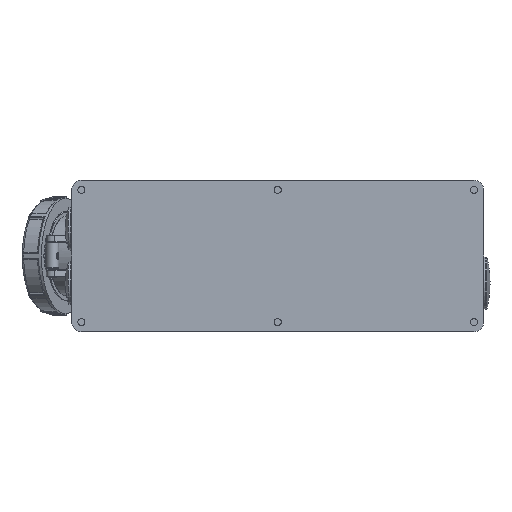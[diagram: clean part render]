
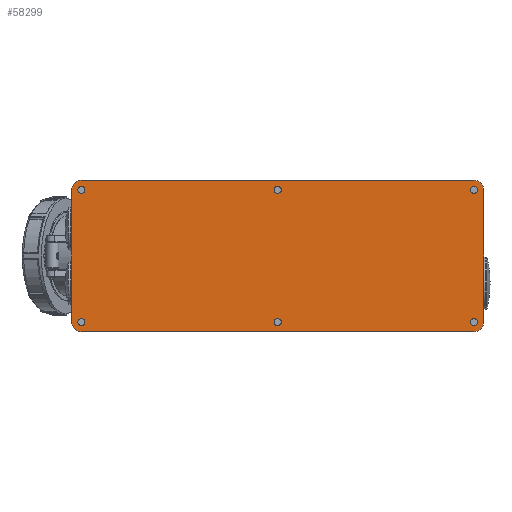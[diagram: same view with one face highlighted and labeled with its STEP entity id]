
A CAD part, front view. The second image highlights one B-rep face of the part: STEP entity #58299.
In plain terms, the highlighted planar face has unit normal (0, -1, 0).
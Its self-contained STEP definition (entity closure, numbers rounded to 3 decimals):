
#13280=CARTESIAN_POINT('',(-173.5,0.,-58.5));
#13281=DIRECTION('',(0.,1.,0.));
#13282=DIRECTION('',(0.,0.,-1.));
#13283=AXIS2_PLACEMENT_3D('',#13280,#13281,#13282);
#13288=DIRECTION('',(0.,0.,1.));
#13289=VECTOR('',#13288,117.);
#13290=CARTESIAN_POINT('',(-182.,0.,-58.5));
#13291=LINE('1913',#13290,#13289);
#13295=CARTESIAN_POINT('',(-173.5,0.,58.5));
#13296=DIRECTION('',(0.,1.,0.));
#13297=DIRECTION('',(-1.,0.,0.));
#13298=AXIS2_PLACEMENT_3D('',#13295,#13296,#13297);
#13303=DIRECTION('',(1.,0.,0.));
#13304=VECTOR('',#13303,347.);
#13305=CARTESIAN_POINT('',(-173.5,0.,67.));
#13306=LINE('1915',#13305,#13304);
#13310=CARTESIAN_POINT('',(173.5,0.,58.5));
#13311=DIRECTION('',(0.,1.,0.));
#13312=DIRECTION('',(0.,0.,1.));
#13313=AXIS2_PLACEMENT_3D('',#13310,#13311,#13312);
#13318=DIRECTION('',(0.,0.,-1.));
#13319=VECTOR('',#13318,117.);
#13320=CARTESIAN_POINT('',(182.,0.,58.5));
#13321=LINE('1917',#13320,#13319);
#13325=CARTESIAN_POINT('',(173.5,0.,-58.5));
#13326=DIRECTION('',(0.,1.,0.));
#13327=DIRECTION('',(1.,0.,0.));
#13328=AXIS2_PLACEMENT_3D('',#13325,#13326,#13327);
#13333=DIRECTION('',(-1.,0.,0.));
#13334=VECTOR('',#13333,347.);
#13335=CARTESIAN_POINT('',(173.5,0.,-67.));
#13336=LINE('1919',#13335,#13334);
#13340=CARTESIAN_POINT('',(0.,0.,-58.5));
#13341=DIRECTION('',(0.,1.,0.));
#13342=DIRECTION('',(0.,0.,1.));
#13343=AXIS2_PLACEMENT_3D('',#13340,#13341,#13342);
#13348=CARTESIAN_POINT('',(0.,0.,-58.5));
#13349=DIRECTION('',(0.,1.,0.));
#13350=DIRECTION('',(0.,0.,-1.));
#13351=AXIS2_PLACEMENT_3D('',#13348,#13349,#13350);
#13356=CARTESIAN_POINT('',(-173.5,0.,-58.5));
#13357=DIRECTION('',(0.,1.,0.));
#13358=DIRECTION('',(0.,0.,1.));
#13359=AXIS2_PLACEMENT_3D('',#13356,#13357,#13358);
#13364=CARTESIAN_POINT('',(-173.5,0.,-58.5));
#13365=DIRECTION('',(0.,1.,0.));
#13366=DIRECTION('',(0.,0.,-1.));
#13367=AXIS2_PLACEMENT_3D('',#13364,#13365,#13366);
#13372=CARTESIAN_POINT('',(173.5,0.,-58.5));
#13373=DIRECTION('',(0.,1.,0.));
#13374=DIRECTION('',(0.,0.,1.));
#13375=AXIS2_PLACEMENT_3D('',#13372,#13373,#13374);
#13380=CARTESIAN_POINT('',(173.5,0.,-58.5));
#13381=DIRECTION('',(0.,1.,0.));
#13382=DIRECTION('',(0.,0.,-1.));
#13383=AXIS2_PLACEMENT_3D('',#13380,#13381,#13382);
#13388=CARTESIAN_POINT('',(0.,0.,58.5));
#13389=DIRECTION('',(0.,-1.,0.));
#13390=DIRECTION('',(0.,0.,-1.));
#13391=AXIS2_PLACEMENT_3D('',#13388,#13389,#13390);
#13396=CARTESIAN_POINT('',(0.,0.,58.5));
#13397=DIRECTION('',(0.,-1.,0.));
#13398=DIRECTION('',(0.,0.,1.));
#13399=AXIS2_PLACEMENT_3D('',#13396,#13397,#13398);
#13404=CARTESIAN_POINT('',(-173.5,0.,58.5));
#13405=DIRECTION('',(0.,-1.,0.));
#13406=DIRECTION('',(0.,0.,-1.));
#13407=AXIS2_PLACEMENT_3D('',#13404,#13405,#13406);
#13412=CARTESIAN_POINT('',(-173.5,0.,58.5));
#13413=DIRECTION('',(0.,-1.,0.));
#13414=DIRECTION('',(0.,0.,1.));
#13415=AXIS2_PLACEMENT_3D('',#13412,#13413,#13414);
#13420=CARTESIAN_POINT('',(173.5,0.,58.5));
#13421=DIRECTION('',(0.,-1.,0.));
#13422=DIRECTION('',(0.,0.,-1.));
#13423=AXIS2_PLACEMENT_3D('',#13420,#13421,#13422);
#13428=CARTESIAN_POINT('',(173.5,0.,58.5));
#13429=DIRECTION('',(0.,-1.,0.));
#13430=DIRECTION('',(0.,0.,1.));
#13431=AXIS2_PLACEMENT_3D('',#13428,#13429,#13430);
#39363=CARTESIAN_POINT('',(-173.5,0.,-67.));
#39364=CARTESIAN_POINT('',(-182.,0.,-58.5));
#39365=VERTEX_POINT('',#39363);
#39366=VERTEX_POINT('',#39364);
#39367=CARTESIAN_POINT('',(-182.,0.,58.5));
#39368=VERTEX_POINT('',#39367);
#39369=CARTESIAN_POINT('',(-173.5,0.,67.));
#39370=VERTEX_POINT('',#39369);
#39371=CARTESIAN_POINT('',(173.5,0.,67.));
#39372=VERTEX_POINT('',#39371);
#39373=CARTESIAN_POINT('',(182.,0.,58.5));
#39374=VERTEX_POINT('',#39373);
#39375=CARTESIAN_POINT('',(182.,0.,-58.5));
#39376=VERTEX_POINT('',#39375);
#39377=CARTESIAN_POINT('',(173.5,0.,-67.));
#39378=VERTEX_POINT('',#39377);
#39379=CARTESIAN_POINT('',(0.,0.,-55.35));
#39380=CARTESIAN_POINT('',(0.,0.,-61.65));
#39381=VERTEX_POINT('',#39379);
#39382=VERTEX_POINT('',#39380);
#39383=CARTESIAN_POINT('',(-173.5,0.,-55.35));
#39384=CARTESIAN_POINT('',(-173.5,0.,-61.65));
#39385=VERTEX_POINT('',#39383);
#39386=VERTEX_POINT('',#39384);
#39387=CARTESIAN_POINT('',(173.5,0.,-55.35));
#39388=CARTESIAN_POINT('',(173.5,0.,-61.65));
#39389=VERTEX_POINT('',#39387);
#39390=VERTEX_POINT('',#39388);
#39391=CARTESIAN_POINT('',(0.,0.,55.35));
#39392=CARTESIAN_POINT('',(0.,0.,61.65));
#39393=VERTEX_POINT('',#39391);
#39394=VERTEX_POINT('',#39392);
#39395=CARTESIAN_POINT('',(-173.5,0.,55.35));
#39396=CARTESIAN_POINT('',(-173.5,0.,61.65));
#39397=VERTEX_POINT('',#39395);
#39398=VERTEX_POINT('',#39396);
#39399=CARTESIAN_POINT('',(173.5,0.,55.35));
#39400=CARTESIAN_POINT('',(173.5,0.,61.65));
#39401=VERTEX_POINT('',#39399);
#39402=VERTEX_POINT('',#39400);
#58248=CARTESIAN_POINT('',(0.,0.,0.));
#58249=DIRECTION('',(0.,1.,0.));
#58250=DIRECTION('',(1.,0.,0.));
#58251=AXIS2_PLACEMENT_3D('',#58248,#58249,#58250);
#58252=PLANE('395',#58251);
#58253=ORIENTED_EDGE('1912',*,*,#58231,.T.);
#58254=ORIENTED_EDGE('1913',*,*,#58194,.T.);
#58255=ORIENTED_EDGE('1914',*,*,#58134,.T.);
#58256=ORIENTED_EDGE('1915',*,*,#58107,.T.);
#58257=ORIENTED_EDGE('1916',*,*,#58068,.T.);
#58258=ORIENTED_EDGE('1917',*,*,#58036,.T.);
#58259=ORIENTED_EDGE('1918',*,*,#58003,.T.);
#58260=ORIENTED_EDGE('1919',*,*,#57977,.T.);
#58261=EDGE_LOOP('395',(#58253,#58254,#58255,#58256,#58257,#58258,#58259,
#58260));
#58262=FACE_OUTER_BOUND('395',#58261,.F.);
#58264=ORIENTED_EDGE('1920',*,*,#58263,.F.);
#58266=ORIENTED_EDGE('1921',*,*,#58265,.F.);
#58267=EDGE_LOOP('395',(#58264,#58266));
#58268=FACE_BOUND('395',#58267,.F.);
#58270=ORIENTED_EDGE('1922',*,*,#58269,.F.);
#58272=ORIENTED_EDGE('1923',*,*,#58271,.F.);
#58273=EDGE_LOOP('395',(#58270,#58272));
#58274=FACE_BOUND('395',#58273,.F.);
#58276=ORIENTED_EDGE('1924',*,*,#58275,.F.);
#58278=ORIENTED_EDGE('1925',*,*,#58277,.F.);
#58279=EDGE_LOOP('395',(#58276,#58278));
#58280=FACE_BOUND('395',#58279,.F.);
#58282=ORIENTED_EDGE('1926',*,*,#58281,.T.);
#58284=ORIENTED_EDGE('1927',*,*,#58283,.T.);
#58285=EDGE_LOOP('395',(#58282,#58284));
#58286=FACE_BOUND('395',#58285,.F.);
#58288=ORIENTED_EDGE('1928',*,*,#58287,.T.);
#58290=ORIENTED_EDGE('1929',*,*,#58289,.T.);
#58291=EDGE_LOOP('395',(#58288,#58290));
#58292=FACE_BOUND('395',#58291,.F.);
#58294=ORIENTED_EDGE('1930',*,*,#58293,.T.);
#58296=ORIENTED_EDGE('1931',*,*,#58295,.T.);
#58297=EDGE_LOOP('395',(#58294,#58296));
#58298=FACE_BOUND('395',#58297,.F.);
#13284=CIRCLE('1912',#13283,8.5);
#13299=CIRCLE('1914',#13298,8.5);
#13314=CIRCLE('1916',#13313,8.5);
#13329=CIRCLE('1918',#13328,8.5);
#13344=CIRCLE('1920',#13343,3.15);
#13352=CIRCLE('1921',#13351,3.15);
#13360=CIRCLE('1922',#13359,3.15);
#13368=CIRCLE('1923',#13367,3.15);
#13376=CIRCLE('1924',#13375,3.15);
#13384=CIRCLE('1925',#13383,3.15);
#13392=CIRCLE('1926',#13391,3.15);
#13400=CIRCLE('1927',#13399,3.15);
#13408=CIRCLE('1928',#13407,3.15);
#13416=CIRCLE('1929',#13415,3.15);
#13424=CIRCLE('1930',#13423,3.15);
#13432=CIRCLE('1931',#13431,3.15);
#57977=EDGE_CURVE('1919',#39378,#39365,#13336,.T.);
#58003=EDGE_CURVE('1918',#39376,#39378,#13329,.T.);
#58036=EDGE_CURVE('1917',#39374,#39376,#13321,.T.);
#58068=EDGE_CURVE('1916',#39372,#39374,#13314,.T.);
#58107=EDGE_CURVE('1915',#39370,#39372,#13306,.T.);
#58134=EDGE_CURVE('1914',#39368,#39370,#13299,.T.);
#58194=EDGE_CURVE('1913',#39366,#39368,#13291,.T.);
#58231=EDGE_CURVE('1912',#39365,#39366,#13284,.T.);
#58263=EDGE_CURVE('1920',#39381,#39382,#13344,.T.);
#58265=EDGE_CURVE('1921',#39382,#39381,#13352,.T.);
#58269=EDGE_CURVE('1922',#39385,#39386,#13360,.T.);
#58271=EDGE_CURVE('1923',#39386,#39385,#13368,.T.);
#58275=EDGE_CURVE('1924',#39389,#39390,#13376,.T.);
#58277=EDGE_CURVE('1925',#39390,#39389,#13384,.T.);
#58281=EDGE_CURVE('1926',#39393,#39394,#13392,.T.);
#58283=EDGE_CURVE('1927',#39394,#39393,#13400,.T.);
#58287=EDGE_CURVE('1928',#39397,#39398,#13408,.T.);
#58289=EDGE_CURVE('1929',#39398,#39397,#13416,.T.);
#58293=EDGE_CURVE('1930',#39401,#39402,#13424,.T.);
#58295=EDGE_CURVE('1931',#39402,#39401,#13432,.T.);
#58299=ADVANCED_FACE('395',(#58262,#58268,#58274,#58280,#58286,#58292,#58298),
#58252,.F.);
